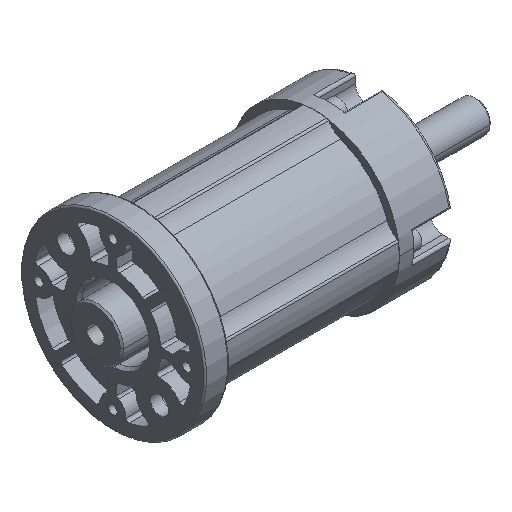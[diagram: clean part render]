
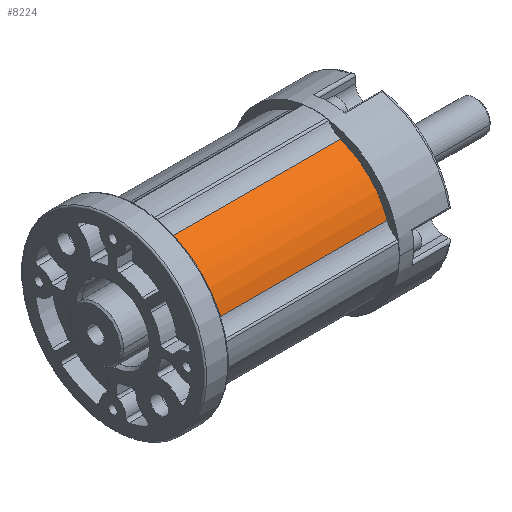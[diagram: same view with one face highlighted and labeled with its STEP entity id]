
A CAD part, isometric view. The second image highlights one B-rep face of the part: STEP entity #8224.
In plain terms, the highlighted cylindrical face has radius 14.5 mm (diameter 29 mm), a partial arc.
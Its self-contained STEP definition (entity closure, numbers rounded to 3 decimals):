
#6937=CARTESIAN_POINT('',(0.,0.,0.));
#6938=DIRECTION('',(1.,0.,0.));
#6939=DIRECTION('',(0.,0.33,-0.944));
#6940=AXIS2_PLACEMENT_3D('',#6937,#6938,#6939);
#7287=CARTESIAN_POINT('',(33.8,0.,0.));
#7288=DIRECTION('',(1.,0.,0.));
#7289=DIRECTION('',(0.,0.33,-0.944));
#7290=AXIS2_PLACEMENT_3D('',#7287,#7288,#7289);
#7514=DIRECTION('',(1.,0.,0.));
#7515=VECTOR('',#7514,33.8);
#7516=CARTESIAN_POINT('',(0.,13.686,-4.791));
#7517=LINE('',#7516,#7515);
#7521=DIRECTION('',(1.,0.,0.));
#7522=VECTOR('',#7521,33.8);
#7523=CARTESIAN_POINT('',(0.,4.791,-13.686));
#7524=LINE('',#7523,#7522);
#7611=CARTESIAN_POINT('',(0.,4.791,-13.686));
#7612=VERTEX_POINT('',#7611);
#7613=CARTESIAN_POINT('',(0.,13.686,-4.791));
#7614=VERTEX_POINT('',#7613);
#7663=CARTESIAN_POINT('',(33.8,4.791,-13.686));
#7664=VERTEX_POINT('',#7663);
#7665=CARTESIAN_POINT('',(33.8,13.686,-4.791));
#7666=VERTEX_POINT('',#7665);
#8212=CARTESIAN_POINT('',(0.,0.,0.));
#8213=DIRECTION('',(1.,0.,0.));
#8214=DIRECTION('',(0.,0.,-1.));
#8215=AXIS2_PLACEMENT_3D('',#8212,#8213,#8214);
#8216=CYLINDRICAL_SURFACE('',#8215,14.5);
#8217=ORIENTED_EDGE('',*,*,#7748,.F.);
#8219=ORIENTED_EDGE('',*,*,#8218,.T.);
#8220=ORIENTED_EDGE('',*,*,#7878,.T.);
#8221=ORIENTED_EDGE('',*,*,#8205,.F.);
#8222=EDGE_LOOP('',(#8217,#8219,#8220,#8221));
#8223=FACE_OUTER_BOUND('',#8222,.F.);
#6941=CIRCLE('',#6940,14.5);
#7291=CIRCLE('',#7290,14.5);
#7748=EDGE_CURVE('',#7612,#7614,#6941,.T.);
#7878=EDGE_CURVE('',#7664,#7666,#7291,.T.);
#8205=EDGE_CURVE('',#7614,#7666,#7517,.T.);
#8218=EDGE_CURVE('',#7612,#7664,#7524,.T.);
#8224=ADVANCED_FACE('',(#8223),#8216,.T.);
